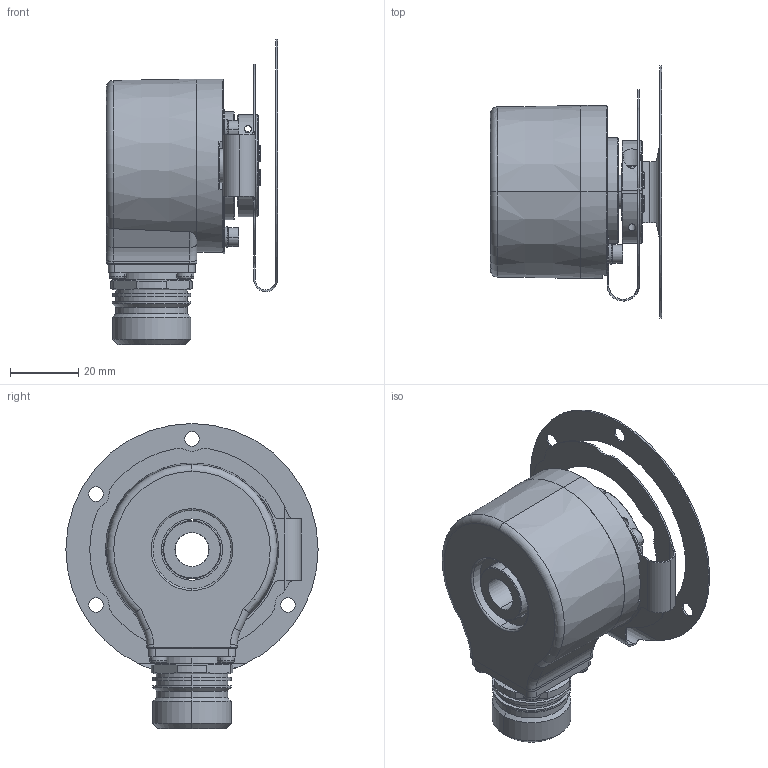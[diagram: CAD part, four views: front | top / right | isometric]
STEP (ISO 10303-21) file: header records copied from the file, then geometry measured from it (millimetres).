
FILE_DESCRIPTION (( 'STEP AP214' ), '1' );
FILE_NAME ('8.5020.83X4.XXXX.STEP', '2011-01-10T07:47:57', ( 'admin' ), ( 'Fritz Kübler GmbH' ), 'SwSTEP 2.0', 'SolidWorks 2009', '' );
FILE_SCHEMA (( 'AUTOMOTIVE_DESIGN' ));
Length unit declared in the file: millimetre
Products named in the file (1): 8.5020.83X4.XXXX
Bounding box: 50.2 x 74 x 89.5 mm (x, y, z)
Surface area: 28014.9 mm2 (no closed solid volume)
Topology: 0 solids, 40 shells, 462 faces, 1342 edges, 890 vertices
Faces by surface type: cylinder 205, plane 136, cone 51, torus 34, sphere 32, bspline 4
Entity records: 20874 total; most frequent: CARTESIAN_POINT 3381, DIRECTION 2836, ORIENTED_EDGE 2330, EDGE_CURVE 1314, AXIS2_PLACEMENT_3D 1167, VERTEX_POINT 890, CIRCLE 708, EDGE_LOOP 535
